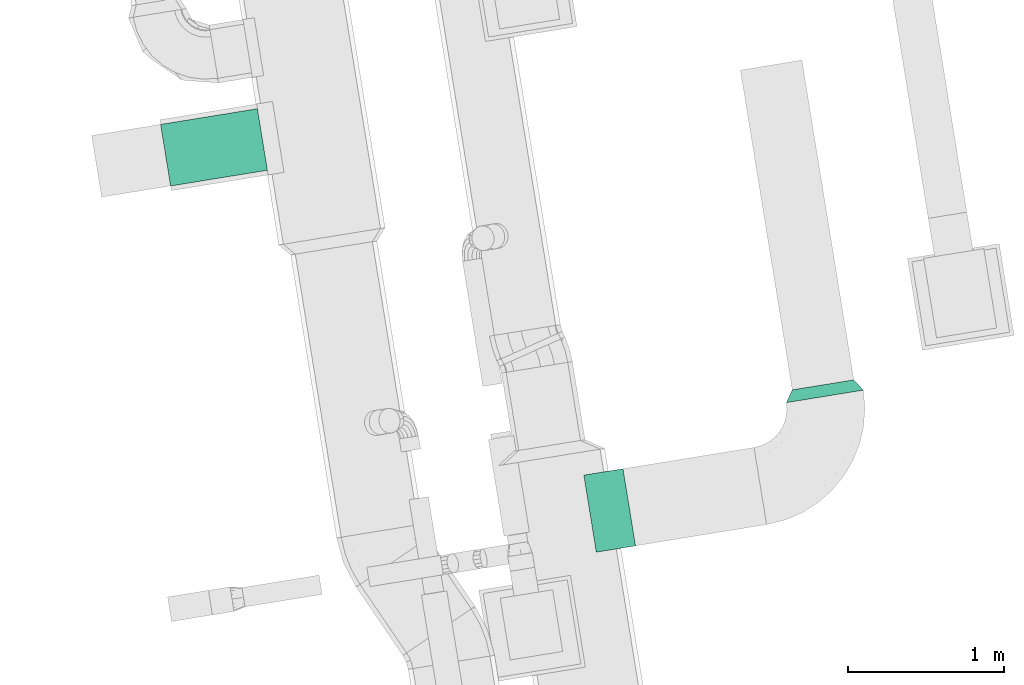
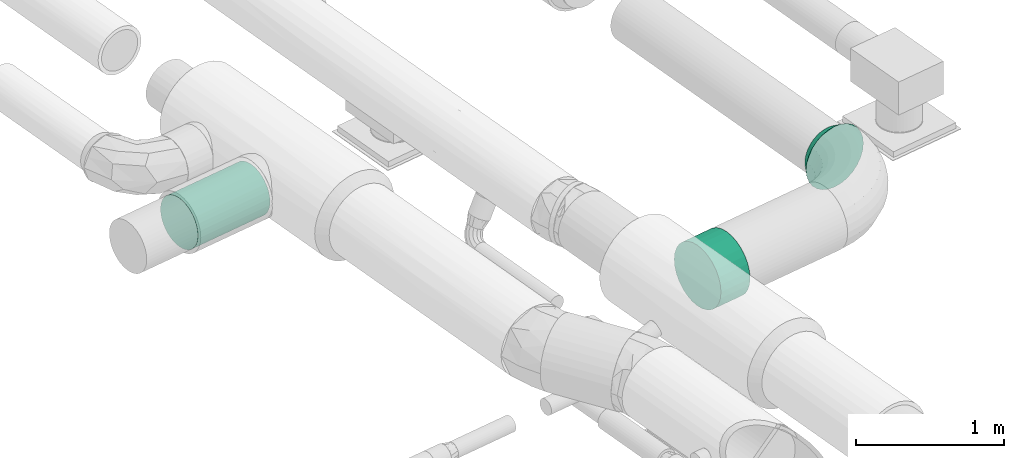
# One storey, part 18 of 39: 2 flow fittings, 1 flow segment.
"""IFC2X3 building model written with IfcOpenShell, lengths in millimetres."""

from ifc_helpers import new_model, entity, si_unit, converted_unit, derived_unit, direction, frame, origin, origin_with_axes, origin_2d_with_axis, place, context, subcontext, project, spatial, circle, extrude, faceted_brep, source, transform, mapped, material, type_object, element, save


model = new_model("IFC2X3")

# Units and contexts
plan_context = context("Plan", 3, precision=1e-05, world=origin_with_axes())
model_context = context("Model", 3, precision=0.01, world=origin(), true_north=direction((6.12323399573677e-17, 1.0)))
body_context = subcontext(model_context, "Body", "Model", "MODEL_VIEW")
ifc_project = project(units=[converted_unit("PLANEANGLEUNIT", "DEGREE", entity("IfcPositiveLengthMeasure", 0.0174532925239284), si_unit("PLANEANGLEUNIT", "RADIAN"), dimensions=[0, 0, 0, 0, 0, 0, 0]), si_unit("AREAUNIT", "SQUARE_METRE"), si_unit("LENGTHUNIT", "METRE", prefix="MILLI"), si_unit("MASSUNIT", "GRAM", prefix="KILO"), si_unit("POWERUNIT", "WATT"), si_unit("PRESSUREUNIT", "PASCAL", prefix="KILO"), si_unit("FORCEUNIT", "NEWTON", prefix="KILO"), si_unit("ELECTRICVOLTAGEUNIT", "VOLT"), si_unit("ELECTRICCURRENTUNIT", "AMPERE"), si_unit("THERMODYNAMICTEMPERATUREUNIT", "DEGREE_CELSIUS"), si_unit("TIMEUNIT", "SECOND"), si_unit("VOLUMEUNIT", "CUBIC_METRE"), derived_unit("LINEARVELOCITYUNIT", [(si_unit("LENGTHUNIT", "METRE"), 1), (si_unit("TIMEUNIT", "SECOND"), -1)]), derived_unit("VOLUMETRICFLOWRATEUNIT", [(si_unit("VOLUMEUNIT", "CUBIC_METRE"), 1), (si_unit("TIMEUNIT", "SECOND"), -1)]), derived_unit("THERMALTRANSMITTANCEUNIT", [(si_unit("POWERUNIT", "WATT"), 1), (si_unit("THERMODYNAMICTEMPERATUREUNIT", "KELVIN"), -1), (si_unit("AREAUNIT", "SQUARE_METRE"), -1)]), derived_unit("SOUNDPRESSUREUNIT", [(si_unit("PRESSUREUNIT", "PASCAL"), 1)])], contexts=[model_context, plan_context])

# Site, building, storey
site_placement = place(None, frame((-0.00071070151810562, 0.00438415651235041, 0.0), z_axis=(0.0, 0.0, 1.0), x_axis=(-0.160236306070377, 0.987078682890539, 0.0)))
site = spatial("IfcSite", under=ifc_project, at=site_placement, Name="Default", CompositionType="ELEMENT")
building_placement = place(site_placement, origin_with_axes())
building = spatial("IfcBuilding", under=site, at=building_placement, CompositionType="ELEMENT")
storey_placement = place(building_placement, frame((0.0, 0.0, 58999.9999999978), z_axis=(0.0, 0.0, 1.0), x_axis=(1.0, 0.0, 0.0)))
storey = spatial("IfcBuildingStorey", under=building, at=storey_placement, Name="Nivå F", CompositionType="ELEMENT", Elevation=58999.9999999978)

# Flow fittings
ifc_material_1 = material(Name="<Unnamed>")
duct_fitting_type_1 = type_object("IfcDuctFittingType", Name="magicirc_tapoutlet_1:magicirc_tapoutlet_001", PredefinedType="NOTDEFINED", material=ifc_material_1)
shared_shape_1 = source(origin(), body_context, "Body", "Brep", [
    faceted_brep([(-129.458321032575, 0.0, -250.0), (-129.458321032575, -55.6302334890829, -243.731978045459), (-129.458321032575, -108.470934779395, -225.242216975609), (-129.458321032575, -155.87245046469, -195.457870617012), (-129.458321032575, -195.457870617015, -155.872450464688), (-129.458321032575, -225.242216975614, -108.470934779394), (-129.458321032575, -243.731978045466, -55.6302334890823), (-129.458321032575, -250.0, 0.0), (-129.458321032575, -243.731978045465, 55.6302334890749), (-129.458321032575, -225.242216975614, 108.470934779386), (-129.458321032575, -195.457870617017, 155.87245046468), (-129.458321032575, -155.872450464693, 195.457870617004), (-129.458321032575, -108.470934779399, 225.242216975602), (-129.458321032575, -55.6302334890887, 243.731978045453), (-129.458321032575, 0.0, 250.0), (-129.458321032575, 55.6302334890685, 243.731978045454), (-129.458321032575, 108.470934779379, 225.242216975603), (-129.458321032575, 155.872450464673, 195.457870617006), (-129.458321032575, 195.457870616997, 155.872450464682), (-129.458321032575, 225.242216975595, 108.470934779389), (-129.458321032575, 243.731978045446, 55.6302334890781), (-129.458321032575, 250.0, 0.0), (-129.458321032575, 243.731978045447, -55.6302334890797), (-129.458321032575, 225.242216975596, -108.47093477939), (-129.458321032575, 195.457870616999, -155.872450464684), (-129.458321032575, 155.872450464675, -195.457870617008), (-129.458321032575, 108.470934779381, -225.242216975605), (-129.458321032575, 55.6302334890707, -243.731978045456), (0.0, 0.0, 250.0), (125.0, 0.0, 250.0), (125.0, 55.6302334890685, 243.731978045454), (0.0, 55.6302334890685, 243.731978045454), (125.0, 108.470934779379, 225.242216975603), (0.0, 108.470934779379, 225.242216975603), (125.0, 155.872450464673, 195.457870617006), (0.0, 155.872450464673, 195.457870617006), (125.0, 195.457870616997, 155.872450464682), (0.0, 195.457870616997, 155.872450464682), (125.0, 225.242216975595, 108.470934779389), (0.0, 225.242216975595, 108.470934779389), (125.0, 243.731978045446, 55.6302334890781), (0.0, 243.731978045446, 55.6302334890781), (125.0, 250.0, 0.0), (0.0, 250.0, 0.0), (125.0, 243.731978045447, -55.6302334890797), (0.0, 243.731978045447, -55.6302334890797), (0.0, 225.242216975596, -108.47093477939), (125.0, 225.242216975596, -108.47093477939), (125.0, 195.457870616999, -155.872450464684), (0.0, 195.457870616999, -155.872450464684), (125.0, 155.872450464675, -195.457870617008), (0.0, 155.872450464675, -195.457870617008), (125.0, 108.470934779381, -225.242216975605), (0.0, 108.470934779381, -225.242216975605), (125.0, 55.6302334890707, -243.731978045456), (0.0, 55.6302334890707, -243.731978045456), (125.0, 0.0, -250.0), (0.0, 0.0, -250.0), (125.0, -55.6302334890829, -243.731978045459), (0.0, -55.6302334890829, -243.731978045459), (125.0, -108.470934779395, -225.242216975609), (0.0, -108.470934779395, -225.242216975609), (125.0, -155.87245046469, -195.457870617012), (0.0, -155.87245046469, -195.457870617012), (125.0, -195.457870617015, -155.872450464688), (0.0, -195.457870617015, -155.872450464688), (125.0, -225.242216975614, -108.470934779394), (0.0, -225.242216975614, -108.470934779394), (125.0, -243.731978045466, -55.6302334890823), (0.0, -243.731978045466, -55.6302334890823), (125.0, -250.0, 0.0), (0.0, -250.0, 0.0), (125.0, -243.731978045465, 55.6302334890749), (0.0, -243.731978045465, 55.6302334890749), (125.0, -225.242216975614, 108.470934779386), (0.0, -225.242216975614, 108.470934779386), (125.0, -195.457870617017, 155.87245046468), (0.0, -195.457870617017, 155.87245046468), (125.0, -155.872450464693, 195.457870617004), (0.0, -155.872450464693, 195.457870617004), (125.0, -108.470934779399, 225.242216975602), (0.0, -108.470934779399, 225.242216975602), (125.0, -55.6302334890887, 243.731978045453), (0.0, -55.6302334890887, 243.731978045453)], [[[0, 1, 2, 3, 4, 5, 6, 7, 8, 9, 10, 11, 12, 13, 14, 15, 16, 17, 18, 19, 20, 21, 22, 23, 24, 25, 26, 27]], [[15, 14, 28, 29, 30, 31]], [[16, 15, 31, 30, 32, 33]], [[17, 16, 33, 32, 34, 35]], [[35, 34, 36, 37, 18, 17]], [[19, 18, 37, 36, 38, 39]], [[20, 19, 39, 38, 40, 41]], [[21, 20, 41, 40, 42, 43]], [[21, 43, 42, 44, 45, 22]], [[46, 47, 48, 49, 24, 23]], [[22, 45, 44, 47, 46, 23]], [[49, 48, 50, 51, 25, 24]], [[26, 25, 51, 50, 52, 53]], [[27, 26, 53, 52, 54, 55]], [[0, 27, 55, 54, 56, 57]], [[57, 56, 58, 59, 1, 0]], [[59, 58, 60, 61, 2, 1]], [[3, 2, 61, 60, 62, 63]], [[63, 62, 64, 65, 4, 3]], [[5, 4, 65, 64, 66, 67]], [[6, 5, 67, 66, 68, 69]], [[7, 6, 69, 68, 70, 71]], [[8, 7, 71, 70, 72, 73]], [[9, 8, 73, 72, 74, 75]], [[10, 9, 75, 74, 76, 77]], [[77, 76, 78, 79, 11, 10]], [[12, 11, 79, 78, 80, 81]], [[13, 12, 81, 80, 82, 83]], [[14, 13, 83, 82, 29, 28]], [[42, 40, 38, 36, 34, 32, 30, 29, 82, 80, 78, 76, 74, 72, 70, 68, 66, 64, 62, 60, 58, 56, 54, 52, 50, 48, 47, 44]]]),
    faceted_brep([(125.0, 0.0, -250.0), (125.0, 55.6302334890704, -243.731978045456), (125.0, 108.470934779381, -225.242216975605), (125.0, 155.872450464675, -195.457870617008), (125.0, 195.457870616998, -155.872450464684), (125.0, 225.242216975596, -108.47093477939), (125.0, 243.731978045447, -55.6302334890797), (125.0, 250.0, 0.0), (125.0, 243.731978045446, 55.6302334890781), (125.0, 225.242216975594, 108.470934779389), (125.0, 195.457870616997, 155.872450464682), (125.0, 155.872450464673, 195.457870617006), (125.0, 108.470934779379, 225.242216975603), (125.0, 55.6302334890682, 243.731978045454), (125.0, 0.0, 250.0), (125.0, -55.630233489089, 243.731978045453), (125.0, -108.4709347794, 225.242216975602), (125.0, -155.872450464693, 195.457870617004), (125.0, -195.457870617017, 155.87245046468), (125.0, -225.242216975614, 108.470934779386), (125.0, -243.731978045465, 55.6302334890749), (125.0, -250.0, 0.0), (125.0, -243.731978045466, -55.6302334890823), (125.0, -225.242216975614, -108.470934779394), (125.0, -195.457870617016, -155.872450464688), (125.0, -155.872450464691, -195.457870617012), (125.0, -108.470934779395, -225.242216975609), (125.0, -55.6302334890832, -243.731978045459), (0.0, 55.6302334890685, 243.731978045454), (-129.458321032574, 55.6302334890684, 243.731978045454), (-129.458321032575, 0.0, 250.0), (0.0, 0.0, 250.0), (0.0, 108.470934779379, 225.242216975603), (-129.458321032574, 108.470934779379, 225.242216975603), (0.0, 155.872450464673, 195.457870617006), (-129.458321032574, 155.872450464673, 195.457870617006), (0.0, 195.457870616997, 155.872450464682), (-129.458321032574, 195.457870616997, 155.872450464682), (0.0, 225.242216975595, 108.470934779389), (-129.458321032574, 225.242216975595, 108.470934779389), (0.0, 243.731978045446, 55.6302334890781), (-129.458321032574, 243.731978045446, 55.6302334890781), (0.0, 250.0, 0.0), (-129.458321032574, 250.0, 0.0), (0.0, 243.731978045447, -55.6302334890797), (-129.458321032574, 243.731978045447, -55.6302334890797), (0.0, 195.457870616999, -155.872450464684), (-129.458321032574, 195.457870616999, -155.872450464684), (-129.458321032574, 225.242216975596, -108.47093477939), (0.0, 225.242216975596, -108.47093477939), (0.0, 155.872450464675, -195.457870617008), (-129.458321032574, 155.872450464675, -195.457870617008), (0.0, 108.470934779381, -225.242216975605), (-129.458321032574, 108.470934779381, -225.242216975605), (0.0, 55.6302334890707, -243.731978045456), (-129.458321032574, 55.6302334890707, -243.731978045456), (0.0, 0.0, -250.0), (-129.458321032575, 0.0, -250.0), (0.0, -55.6302334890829, -243.731978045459), (-129.458321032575, -55.630233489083, -243.731978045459), (0.0, -108.470934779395, -225.242216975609), (-129.458321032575, -108.470934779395, -225.242216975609), (0.0, -155.87245046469, -195.457870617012), (-129.458321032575, -155.87245046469, -195.457870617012), (0.0, -195.457870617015, -155.872450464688), (-129.458321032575, -195.457870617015, -155.872450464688), (0.0, -225.242216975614, -108.470934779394), (-129.458321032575, -225.242216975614, -108.470934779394), (0.0, -243.731978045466, -55.6302334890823), (-129.458321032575, -243.731978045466, -55.6302334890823), (0.0, -250.0, 0.0), (-129.458321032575, -250.0, 0.0), (0.0, -243.731978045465, 55.630233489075), (-129.458321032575, -243.731978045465, 55.6302334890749), (0.0, -225.242216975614, 108.470934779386), (-129.458321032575, -225.242216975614, 108.470934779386), (0.0, -195.457870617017, 155.87245046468), (-129.458321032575, -195.457870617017, 155.87245046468), (0.0, -155.872450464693, 195.457870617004), (-129.458321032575, -155.872450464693, 195.457870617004), (0.0, -108.4709347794, 225.242216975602), (-129.458321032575, -108.4709347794, 225.242216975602), (0.0, -55.6302334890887, 243.731978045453), (-129.458321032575, -55.6302334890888, 243.731978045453)], [[[0, 1, 2, 3, 4, 5, 6, 7, 8, 9, 10, 11, 12, 13, 14, 15, 16, 17, 18, 19, 20, 21, 22, 23, 24, 25, 26, 27]], [[28, 29, 30, 31, 14, 13]], [[32, 33, 29, 28, 13, 12]], [[34, 35, 33, 32, 12, 11]], [[11, 10, 36, 37, 35, 34]], [[38, 39, 37, 36, 10, 9]], [[40, 41, 39, 38, 9, 8]], [[42, 43, 41, 40, 8, 7]], [[42, 7, 6, 44, 45, 43]], [[5, 4, 46, 47, 48, 49]], [[44, 6, 5, 49, 48, 45]], [[4, 3, 50, 51, 47, 46]], [[52, 53, 51, 50, 3, 2]], [[54, 55, 53, 52, 2, 1]], [[56, 57, 55, 54, 1, 0]], [[0, 27, 58, 59, 57, 56]], [[27, 26, 60, 61, 59, 58]], [[62, 63, 61, 60, 26, 25]], [[25, 24, 64, 65, 63, 62]], [[66, 67, 65, 64, 24, 23]], [[68, 69, 67, 66, 23, 22]], [[70, 71, 69, 68, 22, 21]], [[72, 73, 71, 70, 21, 20]], [[74, 75, 73, 72, 20, 19]], [[76, 77, 75, 74, 19, 18]], [[18, 17, 78, 79, 77, 76]], [[80, 81, 79, 78, 17, 16]], [[82, 83, 81, 80, 16, 15]], [[31, 30, 83, 82, 15, 14]], [[57, 59, 61, 63, 65, 67, 69, 71, 73, 75, 77, 79, 81, 83, 30, 29, 33, 35, 37, 39, 41, 43, 45, 48, 47, 51, 53, 55]]]),
    faceted_brep([(-129.458321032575, 0.0, -250.0), (-129.458321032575, -55.6302334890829, -243.731978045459), (-129.458321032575, -108.470934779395, -225.242216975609), (-129.458321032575, -155.87245046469, -195.457870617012), (-129.458321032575, -195.457870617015, -155.872450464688), (-129.458321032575, -225.242216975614, -108.470934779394), (-129.458321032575, -243.731978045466, -55.6302334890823), (-129.458321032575, -250.0, 0.0), (-129.458321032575, -243.731978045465, 55.6302334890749), (-129.458321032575, -225.242216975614, 108.470934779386), (-129.458321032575, -195.457870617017, 155.87245046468), (-129.458321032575, -155.872450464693, 195.457870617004), (-129.458321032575, -108.470934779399, 225.242216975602), (-129.458321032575, -55.6302334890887, 243.731978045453), (-129.458321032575, 0.0, 250.0), (-129.458321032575, 55.6302334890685, 243.731978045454), (-129.458321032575, 108.470934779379, 225.242216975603), (-129.458321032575, 155.872450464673, 195.457870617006), (-129.458321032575, 195.457870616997, 155.872450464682), (-129.458321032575, 225.242216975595, 108.470934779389), (-129.458321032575, 243.731978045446, 55.6302334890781), (-129.458321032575, 250.0, 0.0), (-129.458321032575, 243.731978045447, -55.6302334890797), (-129.458321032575, 225.242216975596, -108.47093477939), (-129.458321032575, 195.457870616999, -155.872450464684), (-129.458321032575, 155.872450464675, -195.457870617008), (-129.458321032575, 108.470934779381, -225.242216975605), (-129.458321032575, 55.6302334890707, -243.731978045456), (0.0, 0.0, 250.0), (125.0, 0.0, 250.0), (125.0, 55.6302334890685, 243.731978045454), (0.0, 55.6302334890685, 243.731978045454), (125.0, 108.470934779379, 225.242216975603), (0.0, 108.470934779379, 225.242216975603), (125.0, 155.872450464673, 195.457870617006), (0.0, 155.872450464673, 195.457870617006), (125.0, 195.457870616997, 155.872450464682), (0.0, 195.457870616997, 155.872450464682), (125.0, 225.242216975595, 108.470934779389), (0.0, 225.242216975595, 108.470934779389), (125.0, 243.731978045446, 55.6302334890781), (0.0, 243.731978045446, 55.6302334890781), (125.0, 250.0, 0.0), (0.0, 250.0, 0.0), (125.0, 243.731978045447, -55.6302334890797), (0.0, 243.731978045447, -55.6302334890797), (0.0, 225.242216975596, -108.47093477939), (125.0, 225.242216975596, -108.47093477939), (125.0, 195.457870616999, -155.872450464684), (0.0, 195.457870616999, -155.872450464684), (125.0, 155.872450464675, -195.457870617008), (0.0, 155.872450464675, -195.457870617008), (125.0, 108.470934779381, -225.242216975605), (0.0, 108.470934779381, -225.242216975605), (125.0, 55.6302334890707, -243.731978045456), (0.0, 55.6302334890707, -243.731978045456), (125.0, 0.0, -250.0), (0.0, 0.0, -250.0), (125.0, -55.6302334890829, -243.731978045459), (0.0, -55.6302334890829, -243.731978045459), (125.0, -108.470934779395, -225.242216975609), (0.0, -108.470934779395, -225.242216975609), (125.0, -155.87245046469, -195.457870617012), (0.0, -155.87245046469, -195.457870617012), (125.0, -195.457870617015, -155.872450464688), (0.0, -195.457870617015, -155.872450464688), (125.0, -225.242216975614, -108.470934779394), (0.0, -225.242216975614, -108.470934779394), (125.0, -243.731978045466, -55.6302334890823), (0.0, -243.731978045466, -55.6302334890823), (125.0, -250.0, 0.0), (0.0, -250.0, 0.0), (125.0, -243.731978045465, 55.6302334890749), (0.0, -243.731978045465, 55.6302334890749), (125.0, -225.242216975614, 108.470934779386), (0.0, -225.242216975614, 108.470934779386), (125.0, -195.457870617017, 155.87245046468), (0.0, -195.457870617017, 155.87245046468), (125.0, -155.872450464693, 195.457870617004), (0.0, -155.872450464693, 195.457870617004), (125.0, -108.470934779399, 225.242216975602), (0.0, -108.470934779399, 225.242216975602), (125.0, -55.6302334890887, 243.731978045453), (0.0, -55.6302334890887, 243.731978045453)], [[[0, 1, 2, 3, 4, 5, 6, 7, 8, 9, 10, 11, 12, 13, 14, 15, 16, 17, 18, 19, 20, 21, 22, 23, 24, 25, 26, 27]], [[15, 14, 28, 29, 30, 31]], [[16, 15, 31, 30, 32, 33]], [[17, 16, 33, 32, 34, 35]], [[35, 34, 36, 37, 18, 17]], [[19, 18, 37, 36, 38, 39]], [[20, 19, 39, 38, 40, 41]], [[21, 20, 41, 40, 42, 43]], [[21, 43, 42, 44, 45, 22]], [[46, 47, 48, 49, 24, 23]], [[22, 45, 44, 47, 46, 23]], [[49, 48, 50, 51, 25, 24]], [[26, 25, 51, 50, 52, 53]], [[27, 26, 53, 52, 54, 55]], [[0, 27, 55, 54, 56, 57]], [[57, 56, 58, 59, 1, 0]], [[59, 58, 60, 61, 2, 1]], [[3, 2, 61, 60, 62, 63]], [[63, 62, 64, 65, 4, 3]], [[5, 4, 65, 64, 66, 67]], [[6, 5, 67, 66, 68, 69]], [[7, 6, 69, 68, 70, 71]], [[8, 7, 71, 70, 72, 73]], [[9, 8, 73, 72, 74, 75]], [[10, 9, 75, 74, 76, 77]], [[77, 76, 78, 79, 11, 10]], [[12, 11, 79, 78, 80, 81]], [[13, 12, 81, 80, 82, 83]], [[14, 13, 83, 82, 29, 28]], [[42, 40, 38, 36, 34, 32, 30, 29, 82, 80, 78, 76, 74, 72, 70, 68, 66, 64, 62, 60, 58, 56, 54, 52, 50, 48, 47, 44]]]),
])
flow_fitting_1_placement = place(storey_placement, frame((773306.18696929, -503655.008615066, 3130.0), z_axis=(0.0, 0.0, -1.0), x_axis=(0.0, -1.0, 0.0)))
element("IfcFlowFitting", 1, at=flow_fitting_1_placement, inside=storey, type_object=duct_fitting_type_1, material=ifc_material_1, Name="magicirc_tapoutlet_1:magicirc_tapoutlet_001", ObjectType="magicirc_tapoutlet_1:magicirc_tapoutlet_001", context=body_context, shape_type="MappedRepresentation", body=[
    mapped(shared_shape_1, transform((0.0, 0.0, 0.0), scale=1.0)),
])
ifc_material_2 = material(Name="Material_Duct")
duct_fitting_type_2 = type_object("IfcDuctFittingType", Name="magicirc_reduction_001:magicirc_reduction_001", PredefinedType="NOTDEFINED", material=ifc_material_2)
shared_shape_2 = source(origin(), body_context, "Body", "Brep", [
    faceted_brep([(75.0, -200.0, 0.0), (75.0, -194.188363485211, -47.8631328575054), (75.0, -177.091205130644, -92.9446344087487), (75.0, -149.702149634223, -132.624531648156), (75.0, -113.612949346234, -164.596773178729), (75.0, -70.9209774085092, -187.003248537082), (75.0, -24.1073360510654, -198.541774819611), (75.0, 24.1073360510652, -198.541774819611), (75.0, 70.9209774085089, -187.003248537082), (75.0, 113.612949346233, -164.596773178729), (75.0, 149.702149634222, -132.624531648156), (75.0, 177.091205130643, -92.9446344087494), (75.0, 194.18836348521, -47.8631328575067), (75.0, 200.0, 0.0), (75.0, 194.18836348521, 47.863132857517), (75.0, 177.09120513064, 92.944634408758), (75.0, 149.702149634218, 132.624531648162), (75.0, 113.612949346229, 164.596773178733), (75.0, 70.9209774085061, 187.003248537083), (75.0, 24.1073360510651, 198.54177481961), (75.0, -24.1073360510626, 198.541774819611), (75.0, -70.920977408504, 187.003248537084), (75.0, -113.612949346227, 164.596773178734), (75.0, -149.702149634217, 132.624531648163), (75.0, -177.09120513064, 92.9446344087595), (75.0, -194.18836348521, 47.8631328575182), (0.0, 250.0, 0.0), (0.0, 243.731978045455, -55.6302334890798), (0.0, 225.242216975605, -108.470934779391), (0.0, 195.457870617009, -155.872450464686), (0.0, 155.872450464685, -195.457870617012), (0.0, 108.470934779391, -225.242216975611), (0.0, 55.6302334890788, -243.731978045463), (0.0, 0.0, -250.0), (0.0, -55.6302334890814, -243.731978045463), (0.0, -108.470934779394, -225.242216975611), (0.0, -155.872450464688, -195.457870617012), (0.0, -195.457870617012, -155.872450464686), (0.0, -225.242216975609, -108.47093477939), (0.0, -243.731978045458, -55.6302334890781), (0.0, -250.0, 0.0), (0.0, -243.731978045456, 55.6302334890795), (0.0, -225.242216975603, 108.47093477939), (0.0, -195.457870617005, 155.872450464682), (0.0, -155.87245046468, 195.457870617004), (0.0, -108.470934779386, 225.242216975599), (0.0, -55.6302334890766, 243.731978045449), (0.0, 0.0, 250.0), (0.0, 55.6302334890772, 243.731978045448), (0.0, 108.470934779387, 225.242216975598), (0.0, 155.872450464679, 195.457870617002), (0.0, 195.457870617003, 155.87245046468), (0.0, 225.242216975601, 108.470934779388), (0.0, 243.731978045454, 55.6302334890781)], [[[0, 1, 2, 3, 4, 5, 6, 7, 8, 9, 10, 11, 12, 13, 14, 15, 16, 17, 18, 19, 20, 21, 22, 23, 24, 25]], [[26, 27, 28, 29, 30, 31, 32, 33, 34, 35, 36, 37, 38, 39, 40, 41, 42, 43, 44, 45, 46, 47, 48, 49, 50, 51, 52, 53]], [[12, 11, 28]], [[13, 12, 27]], [[8, 7, 32]], [[10, 9, 30]], [[8, 31, 9]], [[11, 10, 29]], [[12, 28, 27]], [[27, 26, 13]], [[30, 9, 31]], [[29, 10, 30]], [[29, 28, 11]], [[8, 32, 31]], [[7, 33, 32]], [[5, 4, 35]], [[6, 5, 34]], [[3, 2, 37]], [[1, 0, 39]], [[2, 1, 38]], [[4, 3, 36]], [[33, 6, 34]], [[35, 34, 5]], [[36, 35, 4]], [[3, 37, 36]], [[2, 38, 37]], [[39, 38, 1]], [[40, 39, 0]], [[6, 33, 7]], [[25, 24, 42]], [[0, 25, 41]], [[21, 20, 46]], [[23, 22, 44]], [[21, 45, 22]], [[24, 23, 43]], [[25, 42, 41]], [[41, 40, 0]], [[44, 22, 45]], [[43, 23, 44]], [[43, 42, 24]], [[21, 46, 45]], [[20, 47, 46]], [[18, 17, 49]], [[19, 18, 48]], [[16, 15, 51]], [[14, 13, 53]], [[15, 14, 52]], [[17, 16, 50]], [[47, 19, 48]], [[49, 48, 18]], [[50, 49, 17]], [[16, 51, 50]], [[15, 52, 51]], [[53, 52, 14]], [[26, 53, 13]], [[19, 47, 20]]]),
])
flow_fitting_2_placement = place(storey_placement, frame((773806.186969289, -505130.008615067, 3130.0), z_axis=(0.0, 0.0, 1.0), x_axis=(1.0, 0.0, 0.0)))
element("IfcFlowFitting", 2, at=flow_fitting_2_placement, inside=storey, type_object=duct_fitting_type_2, material=ifc_material_2, Name="magicirc_reduction_001:magicirc_reduction_001", ObjectType="magicirc_reduction_001:magicirc_reduction_001", context=body_context, shape_type="MappedRepresentation", body=[
    mapped(shared_shape_2, transform((0.0, 0.0, 0.0), scale=1.0)),
])

# Flow segment
duct_segment_type = type_object("IfcDuctSegmentType", Name="Round Duct:KK001T - Spiro kanaler, Forsinket stål", PredefinedType="NOTDEFINED")
flow_segment_placement = place(storey_placement, origin_with_axes())
element("IfcFlowSegment", 3, at=flow_segment_placement, inside=storey, type_object=duct_segment_type, Name="Round Duct:KK001T - Spiro kanaler, Forsinket stål", ObjectType="Round Duct:KK001T - Spiro kanaler, Forsinket stål", context=body_context, shape_type="SweptSolid", body=[
    extrude(circle(Radius=200.0, at=origin_2d_with_axis()), frame((776007.222116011, -501838.834706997, 3130.0), z_axis=(0.0, 1.0, 0.0), x_axis=(-1.0, 0.0, 0.0)), (0.0, 0.0, 1.0), 628.19828871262),
])

save(model, "model.ifc")
